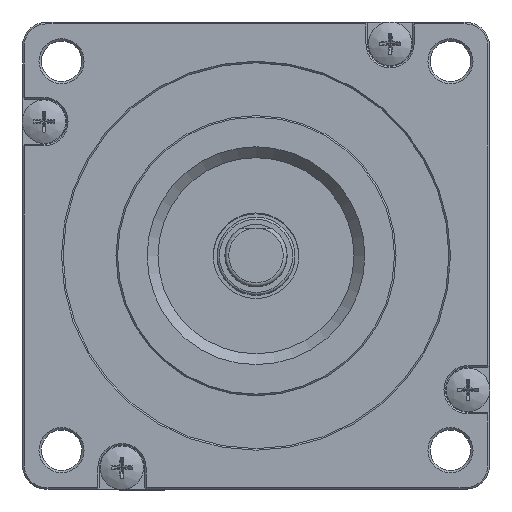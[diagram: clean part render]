
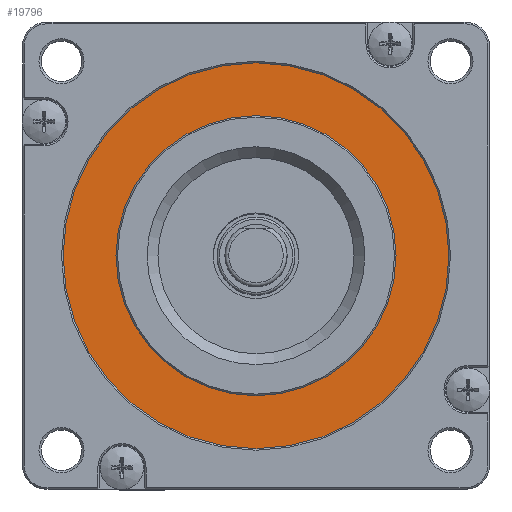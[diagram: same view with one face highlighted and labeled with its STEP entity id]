
A CAD part, top view. The second image highlights one B-rep face of the part: STEP entity #19796.
In plain terms, the highlighted planar face has unit normal (0, 0, 1).
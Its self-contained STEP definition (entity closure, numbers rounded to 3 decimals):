
#986 = FACE_OUTER_BOUND ( 'NONE', #5059, .T. ) ;
#1275 = ORIENTED_EDGE ( 'NONE', *, *, #13852, .T. ) ;
#1742 = PLANE ( 'NONE',  #8294 ) ;
#1971 = EDGE_LOOP ( 'NONE', ( #13035 ) ) ;
#2819 = FACE_BOUND ( 'NONE', #1971, .T. ) ;
#2939 = DIRECTION ( 'NONE',  ( 1., 0., 0. ) ) ;
#2972 = DIRECTION ( 'NONE',  ( 0., 0., 1. ) ) ;
#3475 = AXIS2_PLACEMENT_3D ( 'NONE', #14743, #6371, #2939 ) ;
#5059 = EDGE_LOOP ( 'NONE', ( #1275 ) ) ;
#5532 = CARTESIAN_POINT ( 'NONE',  ( 24.8, 0., 10.8 ) ) ;
#6371 = DIRECTION ( 'NONE',  ( 0., 0., 1. ) ) ;
#7850 = CIRCLE ( 'NONE', #3475, 24.8 ) ;
#8294 = AXIS2_PLACEMENT_3D ( 'NONE', #8544, #20300, #10325 ) ;
#8544 = CARTESIAN_POINT ( 'NONE',  ( 0., 0., 10.8 ) ) ;
#8888 = CARTESIAN_POINT ( 'NONE',  ( 18., 0., 10.8 ) ) ;
#9513 = AXIS2_PLACEMENT_3D ( 'NONE', #19825, #2972, #18152 ) ;
#10325 = DIRECTION ( 'NONE',  ( 1., 0., 0. ) ) ;
#12788 = EDGE_CURVE ( 'NONE', #19354, #19354, #16546, .T. ) ;
#13035 = ORIENTED_EDGE ( 'NONE', *, *, #12788, .F. ) ;
#13852 = EDGE_CURVE ( 'NONE', #20115, #20115, #7850, .T. ) ;
#14743 = CARTESIAN_POINT ( 'NONE',  ( 0., 0., 10.8 ) ) ;
#16546 = CIRCLE ( 'NONE', #9513, 18. ) ;
#18152 = DIRECTION ( 'NONE',  ( 1., 0., 0. ) ) ;
#19354 = VERTEX_POINT ( 'NONE', #8888 ) ;
#19796 = ADVANCED_FACE ( 'NONE', ( #2819, #986 ), #1742, .T. ) ;
#19825 = CARTESIAN_POINT ( 'NONE',  ( 0., 0., 10.8 ) ) ;
#20115 = VERTEX_POINT ( 'NONE', #5532 ) ;
#20300 = DIRECTION ( 'NONE',  ( 0., 0., 1. ) ) ;
